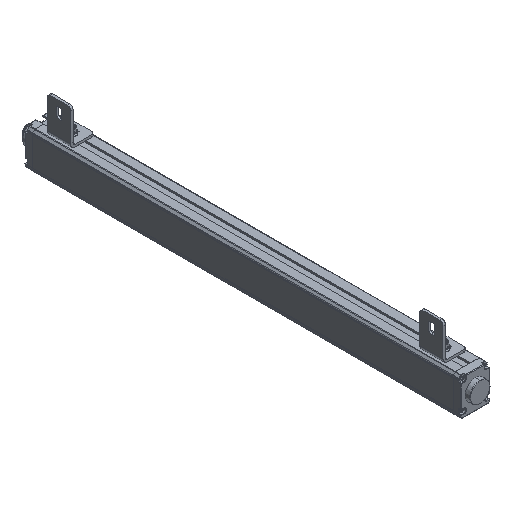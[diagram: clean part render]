
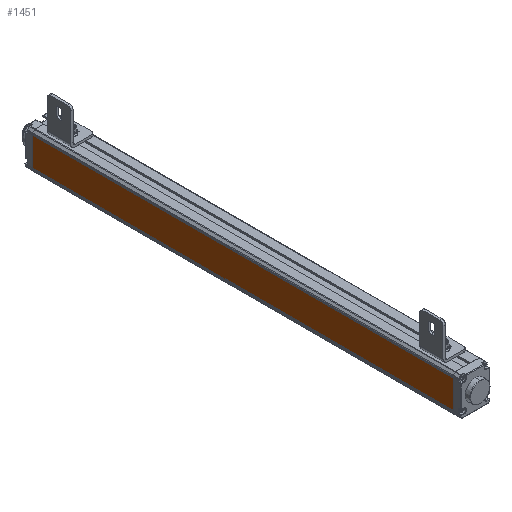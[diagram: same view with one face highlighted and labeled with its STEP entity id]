
A CAD part, isometric view. The second image highlights one B-rep face of the part: STEP entity #1451.
In plain terms, the highlighted planar face has unit normal (-1, 0, 0).
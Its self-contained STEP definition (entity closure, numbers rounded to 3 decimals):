
#24=DIRECTION('',(0.,0.,1.));
#25=VECTOR('',#24,35.4);
#26=CARTESIAN_POINT('',(-17.7,-262.5,-18.1));
#27=LINE('',#26,#25);
#361=DIRECTION('',(0.,0.,1.));
#362=VECTOR('',#361,35.4);
#363=CARTESIAN_POINT('',(-17.7,262.5,-18.1));
#364=LINE('',#363,#362);
#534=DIRECTION('',(0.,1.,0.));
#535=VECTOR('',#534,525.);
#536=CARTESIAN_POINT('',(-17.7,-262.5,17.3));
#537=LINE('',#536,#535);
#538=DIRECTION('',(0.,1.,0.));
#539=VECTOR('',#538,525.);
#540=CARTESIAN_POINT('',(-17.7,-262.5,-18.1));
#541=LINE('',#540,#539);
#613=CARTESIAN_POINT('',(-17.7,-262.5,-18.1));
#615=VERTEX_POINT('',#613);
#616=CARTESIAN_POINT('',(-17.7,-262.5,17.3));
#617=VERTEX_POINT('',#616);
#633=CARTESIAN_POINT('',(-17.7,262.5,-18.1));
#635=VERTEX_POINT('',#633);
#636=CARTESIAN_POINT('',(-17.7,262.5,17.3));
#637=VERTEX_POINT('',#636);
#1439=CARTESIAN_POINT('',(-17.7,-262.5,-18.1));
#1440=DIRECTION('',(-1.,0.,0.));
#1441=DIRECTION('',(0.,0.,1.));
#1442=AXIS2_PLACEMENT_3D('',#1439,#1440,#1441);
#1443=PLANE('',#1442);
#1444=ORIENTED_EDGE('',*,*,#741,.F.);
#1446=ORIENTED_EDGE('',*,*,#1445,.T.);
#1447=ORIENTED_EDGE('',*,*,#933,.T.);
#1448=ORIENTED_EDGE('',*,*,#1432,.F.);
#1449=EDGE_LOOP('',(#1444,#1446,#1447,#1448));
#1450=FACE_OUTER_BOUND('',#1449,.F.);
#1451=ADVANCED_FACE('',(#1450),#1443,.T.);
#741=EDGE_CURVE('',#615,#617,#27,.T.);
#933=EDGE_CURVE('',#635,#637,#364,.T.);
#1432=EDGE_CURVE('',#617,#637,#537,.T.);
#1445=EDGE_CURVE('',#615,#635,#541,.T.);
